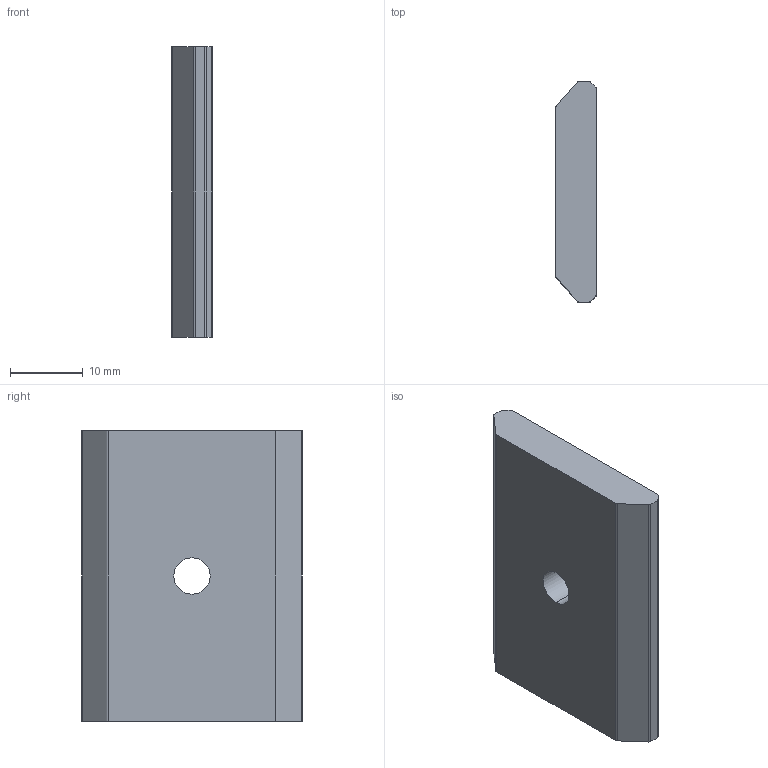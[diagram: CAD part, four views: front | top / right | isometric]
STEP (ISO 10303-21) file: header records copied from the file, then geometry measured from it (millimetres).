
FILE_DESCRIPTION (( 'STEP AP214' ), '1' );
FILE_NAME ('ECQA 40 M6.step', '2017-04-05T07:36:07', ( '' ), ( '' ), 'SwSTEP 2.0', 'SolidWorks 2015', '' );
FILE_SCHEMA (( 'AUTOMOTIVE_DESIGN' ));
Length unit declared in the file: millimetre
Products named in the file (1): ECQA 40 M6
Bounding box: 5.6 x 30.4 x 40 mm (x, y, z)
Volume: 6233.1 mm3; surface area: 3043.9 mm2
Topology: 1 solids, 1 shells, 20 faces, 54 edges, 36 vertices
Faces by surface type: cylinder 10, plane 10
Entity records: 698 total; most frequent: DIRECTION 116, CARTESIAN_POINT 111, ORIENTED_EDGE 108, EDGE_CURVE 54, AXIS2_PLACEMENT_3D 41, VERTEX_POINT 36, LINE 34, VECTOR 34
